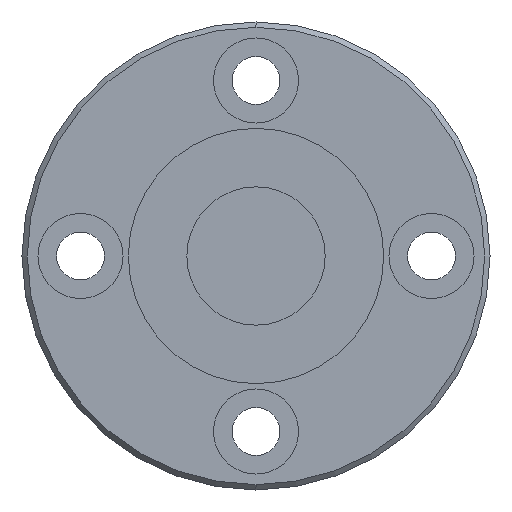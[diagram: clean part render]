
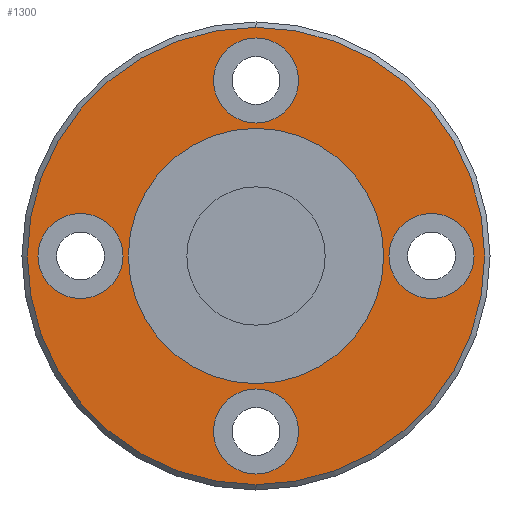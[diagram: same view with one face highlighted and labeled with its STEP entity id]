
A CAD part, left-side view. The second image highlights one B-rep face of the part: STEP entity #1300.
In plain terms, the highlighted planar face has unit normal (-1, 0, 0).
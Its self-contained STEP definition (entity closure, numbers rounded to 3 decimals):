
#14 = EDGE_LOOP ( 'NONE', ( #964, #2395 ) ) ;
#126 = EDGE_CURVE ( 'NONE', #967, #500, #1016, .T. ) ;
#138 = VERTEX_POINT ( 'NONE', #811 ) ;
#144 = FACE_BOUND ( 'NONE', #2145, .T. ) ;
#190 = CIRCLE ( 'NONE', #1021, 4. ) ;
#220 = AXIS2_PLACEMENT_3D ( 'NONE', #1532, #566, #1337 ) ;
#235 = CIRCLE ( 'NONE', #787, 21.5 ) ;
#250 = CARTESIAN_POINT ( 'NONE',  ( 0., 0., 16.5 ) ) ;
#274 = DIRECTION ( 'NONE',  ( -1., 0., 0. ) ) ;
#276 = EDGE_LOOP ( 'NONE', ( #820, #1504 ) ) ;
#289 = ORIENTED_EDGE ( 'NONE', *, *, #961, .F. ) ;
#311 = DIRECTION ( 'NONE',  ( 0., 0., -1. ) ) ;
#312 = ORIENTED_EDGE ( 'NONE', *, *, #2004, .F. ) ;
#323 = CARTESIAN_POINT ( 'NONE',  ( 0., 0., -16.5 ) ) ;
#336 = DIRECTION ( 'NONE',  ( 0., 0., -1. ) ) ;
#338 = DIRECTION ( 'NONE',  ( 1., 0., 0. ) ) ;
#393 = AXIS2_PLACEMENT_3D ( 'NONE', #848, #1952, #626 ) ;
#417 = VERTEX_POINT ( 'NONE', #911 ) ;
#467 = AXIS2_PLACEMENT_3D ( 'NONE', #611, #2161, #1380 ) ;
#483 = DIRECTION ( 'NONE',  ( 0., 0., 1. ) ) ;
#489 = CARTESIAN_POINT ( 'NONE',  ( 0., 0., -12. ) ) ;
#498 = CIRCLE ( 'NONE', #1895, 4. ) ;
#500 = VERTEX_POINT ( 'NONE', #923 ) ;
#510 = DIRECTION ( 'NONE',  ( -1., 0., 0. ) ) ;
#525 = PLANE ( 'NONE',  #593 ) ;
#530 = CARTESIAN_POINT ( 'NONE',  ( 0., 0., -20.5 ) ) ;
#566 = DIRECTION ( 'NONE',  ( -1., 0., 0. ) ) ;
#593 = AXIS2_PLACEMENT_3D ( 'NONE', #1294, #338, #733 ) ;
#611 = CARTESIAN_POINT ( 'NONE',  ( 0., 16.5, 0. ) ) ;
#626 = DIRECTION ( 'NONE',  ( 0., 0., 1. ) ) ;
#645 = CARTESIAN_POINT ( 'NONE',  ( 0., 0., -12.5 ) ) ;
#661 = AXIS2_PLACEMENT_3D ( 'NONE', #2172, #782, #1951 ) ;
#696 = CARTESIAN_POINT ( 'NONE',  ( 0., 0., 0. ) ) ;
#733 = DIRECTION ( 'NONE',  ( 0., 0., -1. ) ) ;
#765 = VERTEX_POINT ( 'NONE', #1084 ) ;
#782 = DIRECTION ( 'NONE',  ( -1., 0., 0. ) ) ;
#787 = AXIS2_PLACEMENT_3D ( 'NONE', #1438, #2027, #336 ) ;
#795 = EDGE_CURVE ( 'NONE', #1378, #1241, #1668, .T. ) ;
#807 = EDGE_CURVE ( 'NONE', #2165, #417, #1220, .T. ) ;
#811 = CARTESIAN_POINT ( 'NONE',  ( 0., 16.5, -4. ) ) ;
#817 = VERTEX_POINT ( 'NONE', #645 ) ;
#820 = ORIENTED_EDGE ( 'NONE', *, *, #1809, .T. ) ;
#844 = DIRECTION ( 'NONE',  ( -1., 0., 0. ) ) ;
#848 = CARTESIAN_POINT ( 'NONE',  ( 0., 0., 0. ) ) ;
#865 = AXIS2_PLACEMENT_3D ( 'NONE', #323, #510, #1653 ) ;
#877 = ORIENTED_EDGE ( 'NONE', *, *, #795, .F. ) ;
#900 = FACE_BOUND ( 'NONE', #14, .T. ) ;
#911 = CARTESIAN_POINT ( 'NONE',  ( 0., 0., -21.5 ) ) ;
#923 = CARTESIAN_POINT ( 'NONE',  ( 0., -16.5, -4. ) ) ;
#961 = EDGE_CURVE ( 'NONE', #765, #138, #1662, .T. ) ;
#964 = ORIENTED_EDGE ( 'NONE', *, *, #1382, .F. ) ;
#967 = VERTEX_POINT ( 'NONE', #1908 ) ;
#1016 = CIRCLE ( 'NONE', #661, 4. ) ;
#1021 = AXIS2_PLACEMENT_3D ( 'NONE', #250, #1778, #1371 ) ;
#1031 = AXIS2_PLACEMENT_3D ( 'NONE', #1731, #2090, #1321 ) ;
#1062 = ORIENTED_EDGE ( 'NONE', *, *, #1575, .F. ) ;
#1084 = CARTESIAN_POINT ( 'NONE',  ( 0., 16.5, 4. ) ) ;
#1092 = FACE_BOUND ( 'NONE', #1374, .T. ) ;
#1103 = CARTESIAN_POINT ( 'NONE',  ( 0., 0., 16.5 ) ) ;
#1189 = AXIS2_PLACEMENT_3D ( 'NONE', #2001, #1263, #311 ) ;
#1215 = CARTESIAN_POINT ( 'NONE',  ( 0., 0., 12.5 ) ) ;
#1220 = CIRCLE ( 'NONE', #2055, 21.5 ) ;
#1224 = EDGE_CURVE ( 'NONE', #2291, #2049, #498, .T. ) ;
#1241 = VERTEX_POINT ( 'NONE', #489 ) ;
#1263 = DIRECTION ( 'NONE',  ( -1., 0., 0. ) ) ;
#1294 = CARTESIAN_POINT ( 'NONE',  ( 0., 22., 0. ) ) ;
#1300 = ADVANCED_FACE ( 'NONE', ( #2044, #1092, #144, #900, #1674, #2431 ), #525, .F. ) ;
#1321 = DIRECTION ( 'NONE',  ( 0., 1., 0. ) ) ;
#1337 = DIRECTION ( 'NONE',  ( 0., 0., 1. ) ) ;
#1371 = DIRECTION ( 'NONE',  ( 0., -1., 0. ) ) ;
#1374 = EDGE_LOOP ( 'NONE', ( #2281, #312 ) ) ;
#1378 = VERTEX_POINT ( 'NONE', #1564 ) ;
#1380 = DIRECTION ( 'NONE',  ( 0., 0., 1. ) ) ;
#1382 = EDGE_CURVE ( 'NONE', #817, #2327, #1526, .T. ) ;
#1438 = CARTESIAN_POINT ( 'NONE',  ( 0., 0., 0. ) ) ;
#1504 = ORIENTED_EDGE ( 'NONE', *, *, #807, .T. ) ;
#1526 = CIRCLE ( 'NONE', #1031, 4. ) ;
#1532 = CARTESIAN_POINT ( 'NONE',  ( 0., 16.5, 0. ) ) ;
#1551 = ORIENTED_EDGE ( 'NONE', *, *, #2094, .F. ) ;
#1564 = CARTESIAN_POINT ( 'NONE',  ( 0., 0., 12. ) ) ;
#1575 = EDGE_CURVE ( 'NONE', #1241, #1378, #2109, .T. ) ;
#1593 = CIRCLE ( 'NONE', #467, 4. ) ;
#1606 = CARTESIAN_POINT ( 'NONE',  ( 0., 0., 21.5 ) ) ;
#1649 = ORIENTED_EDGE ( 'NONE', *, *, #2245, .F. ) ;
#1653 = DIRECTION ( 'NONE',  ( 0., 1., 0. ) ) ;
#1662 = CIRCLE ( 'NONE', #220, 4. ) ;
#1668 = CIRCLE ( 'NONE', #2383, 12. ) ;
#1674 = FACE_BOUND ( 'NONE', #2096, .T. ) ;
#1731 = CARTESIAN_POINT ( 'NONE',  ( 0., 0., -16.5 ) ) ;
#1778 = DIRECTION ( 'NONE',  ( -1., 0., 0. ) ) ;
#1809 = EDGE_CURVE ( 'NONE', #417, #2165, #235, .T. ) ;
#1823 = CARTESIAN_POINT ( 'NONE',  ( 0., 0., 0. ) ) ;
#1833 = DIRECTION ( 'NONE',  ( 0., -1., 0. ) ) ;
#1895 = AXIS2_PLACEMENT_3D ( 'NONE', #1103, #2215, #1833 ) ;
#1902 = EDGE_LOOP ( 'NONE', ( #877, #1062 ) ) ;
#1908 = CARTESIAN_POINT ( 'NONE',  ( 0., -16.5, 4. ) ) ;
#1940 = CIRCLE ( 'NONE', #865, 4. ) ;
#1951 = DIRECTION ( 'NONE',  ( 0., 0., -1. ) ) ;
#1952 = DIRECTION ( 'NONE',  ( -1., 0., 0. ) ) ;
#2001 = CARTESIAN_POINT ( 'NONE',  ( 0., -16.5, 0. ) ) ;
#2004 = EDGE_CURVE ( 'NONE', #2049, #2291, #190, .T. ) ;
#2005 = ORIENTED_EDGE ( 'NONE', *, *, #126, .F. ) ;
#2027 = DIRECTION ( 'NONE',  ( -1., 0., 0. ) ) ;
#2044 = FACE_OUTER_BOUND ( 'NONE', #276, .T. ) ;
#2049 = VERTEX_POINT ( 'NONE', #1215 ) ;
#2055 = AXIS2_PLACEMENT_3D ( 'NONE', #1823, #844, #2220 ) ;
#2090 = DIRECTION ( 'NONE',  ( -1., 0., 0. ) ) ;
#2094 = EDGE_CURVE ( 'NONE', #138, #765, #1593, .T. ) ;
#2096 = EDGE_LOOP ( 'NONE', ( #289, #1551 ) ) ;
#2109 = CIRCLE ( 'NONE', #393, 12. ) ;
#2145 = EDGE_LOOP ( 'NONE', ( #2005, #1649 ) ) ;
#2161 = DIRECTION ( 'NONE',  ( -1., 0., 0. ) ) ;
#2165 = VERTEX_POINT ( 'NONE', #1606 ) ;
#2172 = CARTESIAN_POINT ( 'NONE',  ( 0., -16.5, 0. ) ) ;
#2215 = DIRECTION ( 'NONE',  ( -1., 0., 0. ) ) ;
#2220 = DIRECTION ( 'NONE',  ( 0., 0., -1. ) ) ;
#2231 = EDGE_CURVE ( 'NONE', #2327, #817, #1940, .T. ) ;
#2245 = EDGE_CURVE ( 'NONE', #500, #967, #2263, .T. ) ;
#2263 = CIRCLE ( 'NONE', #1189, 4. ) ;
#2281 = ORIENTED_EDGE ( 'NONE', *, *, #1224, .F. ) ;
#2291 = VERTEX_POINT ( 'NONE', #2424 ) ;
#2327 = VERTEX_POINT ( 'NONE', #530 ) ;
#2383 = AXIS2_PLACEMENT_3D ( 'NONE', #696, #274, #483 ) ;
#2395 = ORIENTED_EDGE ( 'NONE', *, *, #2231, .F. ) ;
#2424 = CARTESIAN_POINT ( 'NONE',  ( 0., 0., 20.5 ) ) ;
#2431 = FACE_BOUND ( 'NONE', #1902, .T. ) ;
